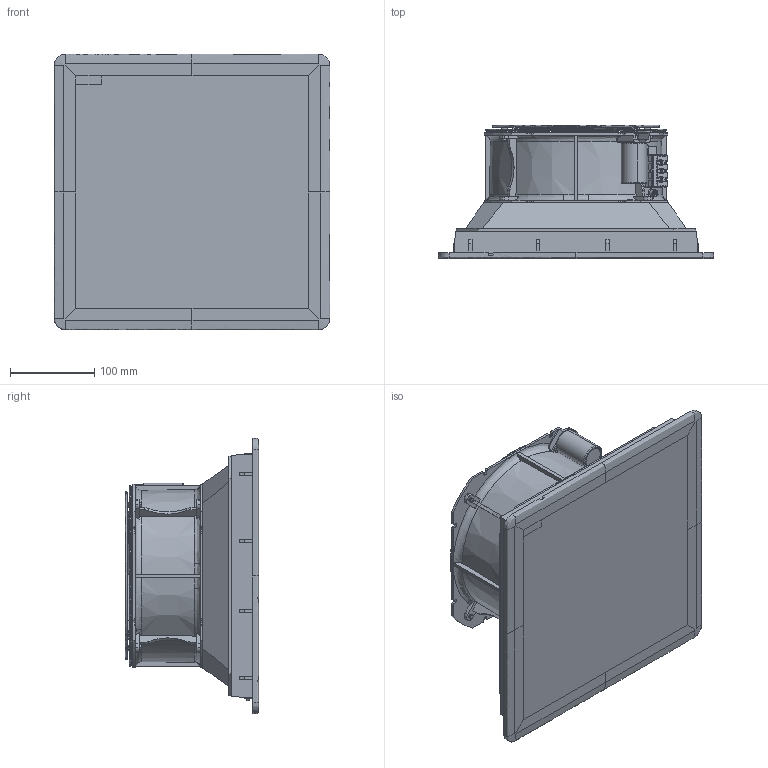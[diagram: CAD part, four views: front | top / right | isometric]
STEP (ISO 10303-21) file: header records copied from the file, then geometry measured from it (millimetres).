
FILE_DESCRIPTION(/* description */ (''),/* implementation_level */ '2;1');
FILE_NAME(/* name */ 'FPF20K~2',/* time_stamp */ '2019-09-10T16:47:50+02:00',/* author */ (''),/* organization */ (''),/* preprocessor_version */ 'ST-DEVELOPER v14',/* originating_system */ '',/* authorisation */ '');
FILE_SCHEMA (('CONFIG_CONTROL_DESIGN'));
Length unit declared in the file: millimetre
Products named in the file (1): Document
Bounding box: 327 x 158.67 x 327 mm (x, y, z)
Volume: 36061 mm3; surface area: 413858.8 mm2
Topology: 5 solids, 9 shells, 1394 faces, 4154 edges, 2693 vertices
Faces by surface type: plane 708, bspline 686
Entity records: 87352 total; most frequent: CARTESIAN_POINT 63221, ORIENTED_EDGE 8182, EDGE_CURVE 4172, VERTEX_POINT 2693, B_SPLINE_CURVE_WITH_KNOTS 2359, EDGE_LOOP 1543, ADVANCED_FACE 1393, FACE_OUTER_BOUND 1393
